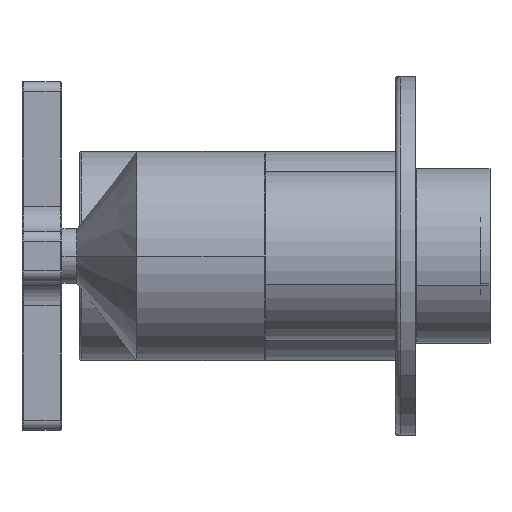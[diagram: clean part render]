
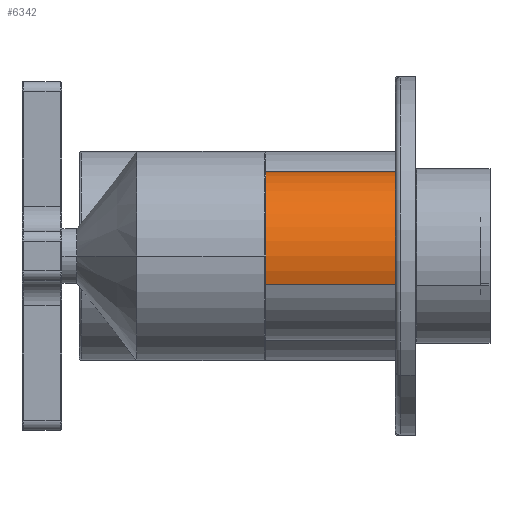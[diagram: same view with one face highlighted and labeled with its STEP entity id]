
A CAD part, left-side view. The second image highlights one B-rep face of the part: STEP entity #6342.
In plain terms, the highlighted cylindrical face has radius 17 mm (diameter 34 mm), a partial arc.
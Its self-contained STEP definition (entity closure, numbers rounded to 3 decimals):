
#119 = DIRECTION ( 'NONE',  ( 0., 0., -1. ) ) ;
#342 = CARTESIAN_POINT ( 'NONE',  ( 0., 0., 65. ) ) ;
#607 = CIRCLE ( 'NONE', #3173, 17. ) ;
#1313 = CARTESIAN_POINT ( 'NONE',  ( -17., 0., 64.7 ) ) ;
#1945 = DIRECTION ( 'NONE',  ( 0., 0., -1. ) ) ;
#2175 = EDGE_LOOP ( 'NONE', ( #10995, #11922, #6115, #3327 ) ) ;
#2378 = VERTEX_POINT ( 'NONE', #10823 ) ;
#2596 = DIRECTION ( 'NONE',  ( 0., 0., -1. ) ) ;
#3173 = AXIS2_PLACEMENT_3D ( 'NONE', #9111, #4798, #12777 ) ;
#3327 = ORIENTED_EDGE ( 'NONE', *, *, #4218, .T. ) ;
#3363 = VECTOR ( 'NONE', #15122, 1000. ) ;
#3583 = CARTESIAN_POINT ( 'NONE',  ( 17., 0., 15. ) ) ;
#3637 = AXIS2_PLACEMENT_3D ( 'NONE', #342, #2596, #3820 ) ;
#3820 = DIRECTION ( 'NONE',  ( -1., 0., 0. ) ) ;
#4218 = EDGE_CURVE ( 'NONE', #2378, #4471, #607, .T. ) ;
#4367 = LINE ( 'NONE', #14087, #3363 ) ;
#4471 = VERTEX_POINT ( 'NONE', #3583 ) ;
#4798 = DIRECTION ( 'NONE',  ( 0., 0., 1. ) ) ;
#5021 = DIRECTION ( 'NONE',  ( 1., 0., 0. ) ) ;
#5153 = EDGE_CURVE ( 'NONE', #14245, #2378, #11931, .T. ) ;
#5553 = CARTESIAN_POINT ( 'NONE',  ( -17., 0., 65. ) ) ;
#6115 = ORIENTED_EDGE ( 'NONE', *, *, #5153, .T. ) ;
#6180 = EDGE_CURVE ( 'NONE', #9613, #4471, #4367, .T. ) ;
#6342 = ADVANCED_FACE ( 'NONE', ( #8600 ), #8524, .T. ) ;
#7499 = AXIS2_PLACEMENT_3D ( 'NONE', #12026, #119, #5021 ) ;
#8524 = CYLINDRICAL_SURFACE ( 'NONE', #3637, 17. ) ;
#8600 = FACE_OUTER_BOUND ( 'NONE', #2175, .T. ) ;
#8990 = VECTOR ( 'NONE', #1945, 1000. ) ;
#9111 = CARTESIAN_POINT ( 'NONE',  ( 0., 0., 15. ) ) ;
#9613 = VERTEX_POINT ( 'NONE', #14117 ) ;
#10127 = EDGE_CURVE ( 'NONE', #9613, #14245, #12079, .T. ) ;
#10823 = CARTESIAN_POINT ( 'NONE',  ( -17., 0., 15. ) ) ;
#10995 = ORIENTED_EDGE ( 'NONE', *, *, #6180, .F. ) ;
#11922 = ORIENTED_EDGE ( 'NONE', *, *, #10127, .T. ) ;
#11931 = LINE ( 'NONE', #5553, #8990 ) ;
#12026 = CARTESIAN_POINT ( 'NONE',  ( 0., 0., 64.7 ) ) ;
#12079 = CIRCLE ( 'NONE', #7499, 17. ) ;
#12777 = DIRECTION ( 'NONE',  ( 1., 0., 0. ) ) ;
#14087 = CARTESIAN_POINT ( 'NONE',  ( 17., 0., 65. ) ) ;
#14117 = CARTESIAN_POINT ( 'NONE',  ( 17., 0., 64.7 ) ) ;
#14245 = VERTEX_POINT ( 'NONE', #1313 ) ;
#15122 = DIRECTION ( 'NONE',  ( 0., 0., -1. ) ) ;
